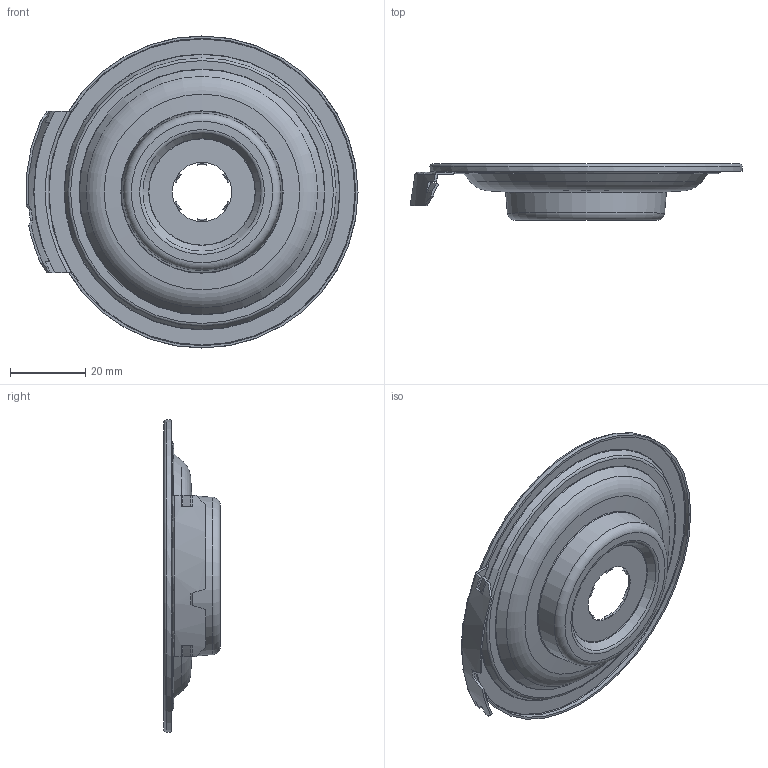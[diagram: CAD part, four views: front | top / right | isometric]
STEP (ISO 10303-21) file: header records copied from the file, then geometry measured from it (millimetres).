
FILE_DESCRIPTION(/* description */ (''),/* implementation_level */ '2;1');
FILE_NAME(/* name */ 'Porte-Filtre - A donner aux candidats v5.step',/* time_stamp */ '2023-06-26T21:44:58+02:00',/* author */ (''),/* organization */ (''),/* preprocessor_version */ 'ST-DEVELOPER v19.2',/* originating_system */ 'Autodesk Translation Framework v12.6.0.85',/* authorisation */ '');
FILE_SCHEMA (('AUTOMOTIVE_DESIGN { 1 0 10303 214 3 1 1 }'));
Length unit declared in the file: millimetre
Products named in the file (1): Porte-Filtre - A donner aux candidats
Bounding box: 88.32 x 15 x 83 mm (x, y, z)
Volume: 4464.6 mm3; surface area: 15303.3 mm2
Topology: 1 solids, 1 shells, 134 faces, 324 edges, 198 vertices
Faces by surface type: plane 64, cylinder 26, torus 22, cone 12, bspline 10
Full cylindrical faces by diameter (mm): 81.8 x1, 83 x1
Entity records: 4039 total; most frequent: CARTESIAN_POINT 831, DIRECTION 722, ORIENTED_EDGE 648, EDGE_CURVE 324, AXIS2_PLACEMENT_3D 297, VERTEX_POINT 198, CIRCLE 164, EDGE_LOOP 142
